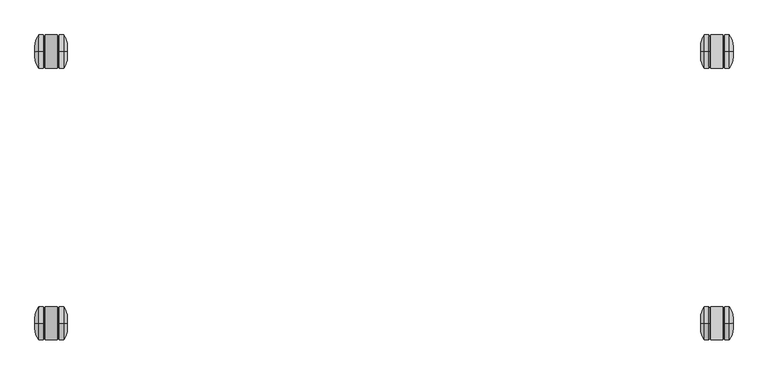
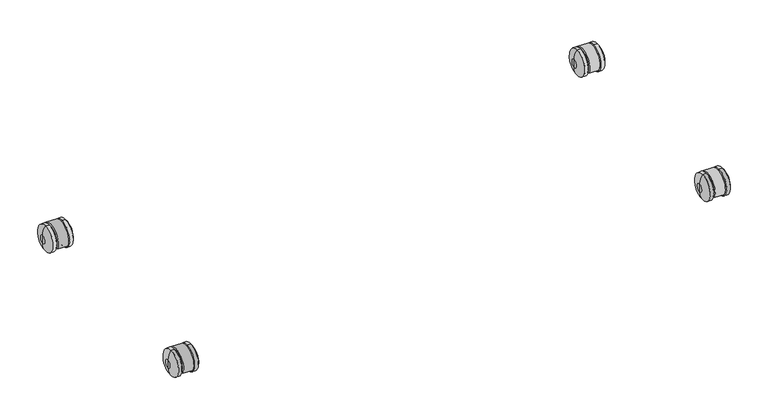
"""IFC4 building model written with IfcOpenShell, lengths in millimetres: furniture geometry, SmithSystem_AM_Table_Education_Elemental_NestAndFold_24D : 24D x 60W."""

from ifc_helpers import new_model, si_unit, point, frame, frame_2d, origin, place, context, project, spatial, polyline, circle_curve, ellipse_curve, trimmed, segment, composite_curve, outline, extrude, source, transform, mapped, element, save
from ifc_brep_helpers import plane_surface, cylinder_surface, revolved_surface, advanced_brep


def furniture_cddd74b0(model_context):
    return source(origin(), model_context, "Body", "SolidModel", [
        extrude(outline(composite_curve([segment(polyline([(-534.3716582, 19.392668), (-597.1174044, 19.392668)]), True, "CONTINUOUS"), segment(trimmed(circle_curve(frame_2d((-565.7445313, 34.2990606)), 34.7341), [point((-597.1174044, 19.392668))], [point((-534.3716582, 19.392668))], False, "CARTESIAN"), True, "CONTINUOUS")], self_intersect=False)), frame((54.6490652, 0.0, 0.0), z_axis=(1.0, 0.0, 0.0), x_axis=(0.0, 1.0, 0.0)), (0.0, 0.0, 1.0), 26.0360428),
        extrude(outline(composite_curve([segment(polyline([(32.7611544, 19.392668), (-29.9845918, 19.392668)]), True, "CONTINUOUS"), segment(trimmed(circle_curve(frame_2d((1.3882813, 34.2990606)), 34.7341), [point((-29.9845918, 19.392668))], [point((32.7611544, 19.392668))], False, "CARTESIAN"), True, "CONTINUOUS")], self_intersect=False)), frame((54.6490652, 0.0, 0.0), z_axis=(1.0, 0.0, 0.0), x_axis=(0.0, 1.0, 0.0)), (0.0, 0.0, 1.0), 26.0360428),
        extrude(outline(composite_curve([segment(polyline([(-534.3716582, 19.392668), (-597.1174044, 19.392668)]), True, "CONTINUOUS"), segment(trimmed(circle_curve(frame_2d((-565.7445313, 34.2990606)), 34.7341), [point((-597.1174044, 19.392668))], [point((-534.3716582, 19.392668))], False, "CARTESIAN"), True, "CONTINUOUS")], self_intersect=False)), frame((1443.314892, 0.0, 0.0), z_axis=(1.0, 0.0, 0.0), x_axis=(0.0, 1.0, 0.0)), (0.0, 0.0, 1.0), 26.0360428),
        extrude(outline(composite_curve([segment(polyline([(32.7611544, 19.392668), (-29.9845918, 19.392668)]), True, "CONTINUOUS"), segment(trimmed(circle_curve(frame_2d((1.3882813, 34.2990606)), 34.7341), [point((-29.9845918, 19.392668))], [point((32.7611544, 19.392668))], False, "CARTESIAN"), True, "CONTINUOUS")], self_intersect=False)), frame((1443.314892, 0.0, 0.0), z_axis=(1.0, 0.0, 0.0), x_axis=(0.0, 1.0, 0.0)), (0.0, 0.0, 1.0), 26.0360428),
        advanced_brep(
        [(1441.7769566, 1.3882813, 34.3697295), (1441.7769566, 1.3882813, 66.3180847), (1441.7769566, 1.3882813, 2.4213744), (1439.6062544, 1.3882813, 69.0331606), (1439.6062544, 1.3882813, -0.2937015), (1430.6015712, 1.3882813, 69.0331606), (1430.6015712, 1.3882813, -0.2937015), (1422.6841685, 1.3882813, 45.9515492), (1422.6841685, 1.3882813, 22.7879099), (1422.6841685, 1.3882813, 34.3697295)],
        [
            (0, 1),
            (1, 2, circle_curve(frame((1441.7769566, 1.3882813, 34.3697295), z_axis=(1.0, 0.0, 0.0), x_axis=(0.0, 0.0, 1.0)), 31.9483552)),
            (2, 0),
            (2, 1, circle_curve(frame((1441.7769566, 1.3882813, 34.3697295), z_axis=(1.0, 0.0, 0.0), x_axis=(0.0, 0.0, 1.0)), 31.9483552)),
            (1, 3),
            (3, 4, circle_curve(frame((1439.6062544, 1.3882813, 34.3697295), z_axis=(1.0, 0.0, 0.0), x_axis=(0.0, 0.0, 1.0)), 34.6634311)),
            (4, 2),
            (4, 3, circle_curve(frame((1439.6062544, 1.3882813, 34.3697295), z_axis=(1.0, 0.0, 0.0), x_axis=(0.0, 0.0, 1.0)), 34.6634311)),
            (3, 5),
            (5, 6, circle_curve(frame((1430.6015712, 1.3882813, 34.3697295), z_axis=(1.0, 0.0, 0.0), x_axis=(0.0, 0.0, 1.0)), 34.6634311)),
            (6, 4),
            (6, 5, circle_curve(frame((1430.6015712, 1.3882813, 34.3697295), z_axis=(1.0, 0.0, 0.0), x_axis=(0.0, 0.0, 1.0)), 34.6634311)),
            (5, 7, circle_curve(frame((1460.2877916, 1.3882813, 45.9515492), z_axis=(0.0, -1.0, 0.0), x_axis=(1.0, 0.0, 0.0)), 37.6036231)),
            (7, 8, circle_curve(frame((1422.6841685, 1.3882813, 34.3697295), z_axis=(1.0, 0.0, 0.0), x_axis=(0.0, 0.0, 1.0)), 11.5818197)),
            (8, 6, circle_curve(frame((1460.2877916, 1.3882813, 22.7879099), z_axis=(0.0, -1.0, 0.0), x_axis=(1.0, 0.0, 0.0)), 37.6036231)),
            (8, 7, circle_curve(frame((1422.6841685, 1.3882813, 34.3697295), z_axis=(1.0, 0.0, 0.0), x_axis=(0.0, 0.0, 1.0)), 11.5818197)),
            (7, 9),
            (9, 8),
        ],
        [
            plane_surface(frame((1441.7769566, 1.3882813, 34.3697295), z_axis=(1.0, 0.0, 0.0), x_axis=(0.0, 0.0, 1.0))),
            revolved_surface(polyline([(1439.6062544, 1.3882813, 69.0331606), (1441.7769566, 1.3882813, 66.3180847)]), (1422.6841685, 1.3882813, 34.3697295), (1.0, 0.0, 0.0)),
            cylinder_surface(frame((1422.6841685, 1.3882813, 34.3697295), z_axis=(1.0, 0.0, 0.0), x_axis=(0.0, 0.0, 1.0)), 34.6634311),
            revolved_surface(trimmed(ellipse_curve(frame((1460.2877916, 1.3882813, 45.9515492), z_axis=(0.0, 1.0, 0.0), x_axis=(1.0, 0.0, 0.0)), 37.6036231, 37.6036231), [point((1422.6841685, 1.3882813, 45.9515492))], [point((1430.6015712, 1.3882813, 69.0331606))], True, "CARTESIAN"), (1422.6841685, 1.3882813, 34.3697295), (1.0, 0.0, 0.0)),
            plane_surface(frame((1422.6841685, 1.3882813, 34.3697295), z_axis=(-1.0, 0.0, 0.0), x_axis=(0.0, 0.0, 1.0))),
        ],
        [
            (0, [[1, 2, 3]]),
            (0, [[-3, 4, -1]]),
            (1, [[-2, 5, 6, 7]]),
            (1, [[-4, -7, 8, -5]]),
            (2, [[-6, 9, 10, 11]]),
            (2, [[-8, -11, 12, -9]]),
            (3, [[-10, 13, 14, 15]]),
            (3, [[-12, -15, 16, -13]]),
            (4, [[-14, 17, 18]]),
            (4, [[-16, -18, -17]]),
        ],
    ),
        advanced_brep(
        [(1490.4247373, 1.3882813, 34.3697295), (1490.4247373, 1.3882813, 45.9515492), (1490.4247373, 1.3882813, 22.7879099), (1482.5073346, 1.3882813, 69.0331606), (1482.5073346, 1.3882813, -0.2937015), (1473.5026514, 1.3882813, 69.0331606), (1473.5026514, 1.3882813, -0.2937015), (1471.3319492, 1.3882813, 66.3180847), (1471.3319492, 1.3882813, 2.4213744), (1471.3319492, 1.3882813, 34.3697295)],
        [
            (0, 1),
            (1, 2, circle_curve(frame((1490.4247373, 1.3882813, 34.3697295), z_axis=(1.0, 0.0, 0.0), x_axis=(0.0, 0.0, 1.0)), 11.5818197)),
            (2, 0),
            (2, 1, circle_curve(frame((1490.4247373, 1.3882813, 34.3697295), z_axis=(1.0, 0.0, 0.0), x_axis=(0.0, 0.0, 1.0)), 11.5818197)),
            (1, 3, circle_curve(frame((1452.8211142, 1.3882813, 45.9515492), z_axis=(0.0, -1.0, 0.0), x_axis=(1.0, 0.0, 0.0)), 37.6036231)),
            (3, 4, circle_curve(frame((1482.5073346, 1.3882813, 34.3697295), z_axis=(1.0, 0.0, 0.0), x_axis=(0.0, 0.0, 1.0)), 34.6634311)),
            (4, 2, circle_curve(frame((1452.8211142, 1.3882813, 22.7879099), z_axis=(0.0, -1.0, 0.0), x_axis=(1.0, 0.0, 0.0)), 37.6036231)),
            (4, 3, circle_curve(frame((1482.5073346, 1.3882813, 34.3697295), z_axis=(1.0, 0.0, 0.0), x_axis=(0.0, 0.0, 1.0)), 34.6634311)),
            (3, 5),
            (5, 6, circle_curve(frame((1473.5026514, 1.3882813, 34.3697295), z_axis=(1.0, 0.0, 0.0), x_axis=(0.0, 0.0, 1.0)), 34.6634311)),
            (6, 4),
            (6, 5, circle_curve(frame((1473.5026514, 1.3882813, 34.3697295), z_axis=(1.0, 0.0, 0.0), x_axis=(0.0, 0.0, 1.0)), 34.6634311)),
            (5, 7),
            (7, 8, circle_curve(frame((1471.3319492, 1.3882813, 34.3697295), z_axis=(1.0, 0.0, 0.0), x_axis=(0.0, 0.0, 1.0)), 31.9483552)),
            (8, 6),
            (8, 7, circle_curve(frame((1471.3319492, 1.3882813, 34.3697295), z_axis=(1.0, 0.0, 0.0), x_axis=(0.0, 0.0, 1.0)), 31.9483552)),
            (7, 9),
            (9, 8),
        ],
        [
            plane_surface(frame((1490.4247373, 1.3882813, 34.3697295), z_axis=(1.0, 0.0, 0.0), x_axis=(0.0, 0.0, 1.0))),
            revolved_surface(trimmed(ellipse_curve(frame((1452.8211142, 1.3882813, 45.9515492), z_axis=(0.0, 1.0, 0.0), x_axis=(1.0, 0.0, 0.0)), 37.6036231, 37.6036231), [point((1482.5073346, 1.3882813, 69.0331606))], [point((1490.4247373, 1.3882813, 45.9515492))], True, "CARTESIAN"), (1422.6841685, 1.3882813, 34.3697295), (1.0, 0.0, 0.0)),
            cylinder_surface(frame((1422.6841685, 1.3882813, 34.3697295), z_axis=(1.0, 0.0, 0.0), x_axis=(0.0, 0.0, 1.0)), 34.6634311),
            revolved_surface(polyline([(1471.3319492, 1.3882813, 66.3180847), (1473.5026514, 1.3882813, 69.0331606)]), (1422.6841685, 1.3882813, 34.3697295), (1.0, 0.0, 0.0)),
            plane_surface(frame((1471.3319492, 1.3882813, 34.3697295), z_axis=(-1.0, 0.0, 0.0), x_axis=(0.0, 0.0, 1.0))),
        ],
        [
            (0, [[1, 2, 3]]),
            (0, [[-3, 4, -1]]),
            (1, [[-2, 5, 6, 7]]),
            (1, [[-4, -7, 8, -5]]),
            (2, [[-6, 9, 10, 11]]),
            (2, [[-8, -11, 12, -9]]),
            (3, [[-10, 13, 14, 15]]),
            (3, [[-12, -15, 16, -13]]),
            (4, [[-14, 17, 18]]),
            (4, [[-16, -18, -17]]),
        ],
    ),
        advanced_brep(
        [(101.3158315, 1.3882813, 34.3697295), (101.3158315, 1.3882813, 45.9515492), (101.3158315, 1.3882813, 22.7879099), (93.3984288, 1.3882813, 69.0331606), (93.3984288, 1.3882813, -0.2937015), (84.3937456, 1.3882813, 69.0331606), (84.3937456, 1.3882813, -0.2937015), (82.2230434, 1.3882813, 66.3180847), (82.2230434, 1.3882813, 2.4213744), (82.2230434, 1.3882813, 34.3697295)],
        [
            (0, 1),
            (1, 2, circle_curve(frame((101.3158315, 1.3882813, 34.3697295), z_axis=(1.0, 0.0, 0.0), x_axis=(0.0, 0.0, 1.0)), 11.5818197)),
            (2, 0),
            (2, 1, circle_curve(frame((101.3158315, 1.3882813, 34.3697295), z_axis=(1.0, 0.0, 0.0), x_axis=(0.0, 0.0, 1.0)), 11.5818197)),
            (1, 3, circle_curve(frame((63.7122084, 1.3882813, 45.9515492), z_axis=(0.0, -1.0, 0.0), x_axis=(1.0, 0.0, 0.0)), 37.6036231)),
            (3, 4, circle_curve(frame((93.3984288, 1.3882813, 34.3697295), z_axis=(1.0, 0.0, 0.0), x_axis=(0.0, 0.0, 1.0)), 34.6634311)),
            (4, 2, circle_curve(frame((63.7122084, 1.3882813, 22.7879099), z_axis=(0.0, -1.0, 0.0), x_axis=(1.0, 0.0, 0.0)), 37.6036231)),
            (4, 3, circle_curve(frame((93.3984288, 1.3882813, 34.3697295), z_axis=(1.0, 0.0, 0.0), x_axis=(0.0, 0.0, 1.0)), 34.6634311)),
            (3, 5),
            (5, 6, circle_curve(frame((84.3937456, 1.3882813, 34.3697295), z_axis=(1.0, 0.0, 0.0), x_axis=(0.0, 0.0, 1.0)), 34.6634311)),
            (6, 4),
            (6, 5, circle_curve(frame((84.3937456, 1.3882813, 34.3697295), z_axis=(1.0, 0.0, 0.0), x_axis=(0.0, 0.0, 1.0)), 34.6634311)),
            (5, 7),
            (7, 8, circle_curve(frame((82.2230434, 1.3882813, 34.3697295), z_axis=(1.0, 0.0, 0.0), x_axis=(0.0, 0.0, 1.0)), 31.9483552)),
            (8, 6),
            (8, 7, circle_curve(frame((82.2230434, 1.3882813, 34.3697295), z_axis=(1.0, 0.0, 0.0), x_axis=(0.0, 0.0, 1.0)), 31.9483552)),
            (7, 9),
            (9, 8),
        ],
        [
            plane_surface(frame((101.3158315, 1.3882813, 34.3697295), z_axis=(1.0, 0.0, 0.0), x_axis=(0.0, 0.0, 1.0))),
            revolved_surface(trimmed(ellipse_curve(frame((63.7122084, 1.3882813, 45.9515492), z_axis=(0.0, 1.0, 0.0), x_axis=(1.0, 0.0, 0.0)), 37.6036231, 37.6036231), [point((93.3984288, 1.3882813, 69.0331606))], [point((101.3158315, 1.3882813, 45.9515492))], True, "CARTESIAN"), (1422.6841685, 1.3882813, 34.3697295), (1.0, 0.0, 0.0)),
            cylinder_surface(frame((1422.6841685, 1.3882813, 34.3697295), z_axis=(1.0, 0.0, 0.0), x_axis=(0.0, 0.0, 1.0)), 34.6634311),
            revolved_surface(polyline([(82.2230434, 1.3882813, 66.3180847), (84.3937456, 1.3882813, 69.0331606)]), (1422.6841685, 1.3882813, 34.3697295), (1.0, 0.0, 0.0)),
            plane_surface(frame((82.2230434, 1.3882813, 34.3697295), z_axis=(-1.0, 0.0, 0.0), x_axis=(0.0, 0.0, 1.0))),
        ],
        [
            (0, [[1, 2, 3]]),
            (0, [[-3, 4, -1]]),
            (1, [[-2, 5, 6, 7]]),
            (1, [[-4, -7, 8, -5]]),
            (2, [[-6, 9, 10, 11]]),
            (2, [[-8, -11, 12, -9]]),
            (3, [[-10, 13, 14, 15]]),
            (3, [[-12, -15, 16, -13]]),
            (4, [[-14, 17, 18]]),
            (4, [[-16, -18, -17]]),
        ],
    ),
        advanced_brep(
        [(52.6680508, 1.3882813, 34.3697295), (52.6680508, 1.3882813, 66.3180847), (52.6680508, 1.3882813, 2.4213744), (50.4973486, 1.3882813, 69.0331606), (50.4973486, 1.3882813, -0.2937015), (41.4926654, 1.3882813, 69.0331606), (41.4926654, 1.3882813, -0.2937015), (33.5752627, 1.3882813, 45.9515492), (33.5752627, 1.3882813, 22.7879099), (33.5752627, 1.3882813, 34.3697295)],
        [
            (0, 1),
            (1, 2, circle_curve(frame((52.6680508, 1.3882813, 34.3697295), z_axis=(1.0, 0.0, 0.0), x_axis=(0.0, 0.0, 1.0)), 31.9483552)),
            (2, 0),
            (2, 1, circle_curve(frame((52.6680508, 1.3882813, 34.3697295), z_axis=(1.0, 0.0, 0.0), x_axis=(0.0, 0.0, 1.0)), 31.9483552)),
            (1, 3),
            (3, 4, circle_curve(frame((50.4973486, 1.3882813, 34.3697295), z_axis=(1.0, 0.0, 0.0), x_axis=(0.0, 0.0, 1.0)), 34.6634311)),
            (4, 2),
            (4, 3, circle_curve(frame((50.4973486, 1.3882813, 34.3697295), z_axis=(1.0, 0.0, 0.0), x_axis=(0.0, 0.0, 1.0)), 34.6634311)),
            (3, 5),
            (5, 6, circle_curve(frame((41.4926654, 1.3882813, 34.3697295), z_axis=(1.0, 0.0, 0.0), x_axis=(0.0, 0.0, 1.0)), 34.6634311)),
            (6, 4),
            (6, 5, circle_curve(frame((41.4926654, 1.3882813, 34.3697295), z_axis=(1.0, 0.0, 0.0), x_axis=(0.0, 0.0, 1.0)), 34.6634311)),
            (5, 7, circle_curve(frame((71.1788858, 1.3882813, 45.9515492), z_axis=(0.0, -1.0, 0.0), x_axis=(1.0, 0.0, 0.0)), 37.6036231)),
            (7, 8, circle_curve(frame((33.5752627, 1.3882813, 34.3697295), z_axis=(1.0, 0.0, 0.0), x_axis=(0.0, 0.0, 1.0)), 11.5818197)),
            (8, 6, circle_curve(frame((71.1788858, 1.3882813, 22.7879099), z_axis=(0.0, -1.0, 0.0), x_axis=(1.0, 0.0, 0.0)), 37.6036231)),
            (8, 7, circle_curve(frame((33.5752627, 1.3882813, 34.3697295), z_axis=(1.0, 0.0, 0.0), x_axis=(0.0, 0.0, 1.0)), 11.5818197)),
            (7, 9),
            (9, 8),
        ],
        [
            plane_surface(frame((52.6680508, 1.3882813, 34.3697295), z_axis=(1.0, 0.0, 0.0), x_axis=(0.0, 0.0, 1.0))),
            revolved_surface(polyline([(50.4973486, 1.3882813, 69.0331606), (52.6680508, 1.3882813, 66.3180847)]), (1422.6841685, 1.3882813, 34.3697295), (1.0, 0.0, 0.0)),
            cylinder_surface(frame((1422.6841685, 1.3882813, 34.3697295), z_axis=(1.0, 0.0, 0.0), x_axis=(0.0, 0.0, 1.0)), 34.6634311),
            revolved_surface(trimmed(ellipse_curve(frame((71.1788858, 1.3882813, 45.9515492), z_axis=(0.0, 1.0, 0.0), x_axis=(1.0, 0.0, 0.0)), 37.6036231, 37.6036231), [point((33.5752627, 1.3882813, 45.9515492))], [point((41.4926654, 1.3882813, 69.0331606))], True, "CARTESIAN"), (1422.6841685, 1.3882813, 34.3697295), (1.0, 0.0, 0.0)),
            plane_surface(frame((33.5752627, 1.3882813, 34.3697295), z_axis=(-1.0, 0.0, 0.0), x_axis=(0.0, 0.0, 1.0))),
        ],
        [
            (0, [[1, 2, 3]]),
            (0, [[-3, 4, -1]]),
            (1, [[-2, 5, 6, 7]]),
            (1, [[-4, -7, 8, -5]]),
            (2, [[-6, 9, 10, 11]]),
            (2, [[-8, -11, 12, -9]]),
            (3, [[-10, 13, 14, 15]]),
            (3, [[-12, -15, 16, -13]]),
            (4, [[-14, 17, 18]]),
            (4, [[-16, -18, -17]]),
        ],
    ),
        advanced_brep(
        [(1441.7769566, -565.7453125, 2.4213744), (1441.7769566, -565.7453125, 66.3180847), (1441.7769566, -565.7453125, 34.3697295), (1439.6062544, -565.7453125, -0.2937015), (1439.6062544, -565.7453125, 69.0331606), (1430.6015712, -565.7453125, -0.2937015), (1430.6015712, -565.7453125, 69.0331606), (1422.6841685, -565.7453125, 22.7879099), (1422.6841685, -565.7453125, 45.9515492), (1422.6841685, -565.7453125, 34.3697295)],
        [
            (0, 1, circle_curve(frame((1441.7769566, -565.7453125, 34.3697295), z_axis=(1.0, 0.0, 0.0), x_axis=(0.0, 0.0, 1.0)), 31.9483552)),
            (1, 2),
            (2, 0),
            (1, 0, circle_curve(frame((1441.7769566, -565.7453125, 34.3697295), z_axis=(1.0, 0.0, 0.0), x_axis=(0.0, 0.0, 1.0)), 31.9483552)),
            (3, 4, circle_curve(frame((1439.6062544, -565.7453125, 34.3697295), z_axis=(1.0, 0.0, 0.0), x_axis=(0.0, 0.0, 1.0)), 34.6634311)),
            (4, 1),
            (0, 3),
            (4, 3, circle_curve(frame((1439.6062544, -565.7453125, 34.3697295), z_axis=(1.0, 0.0, 0.0), x_axis=(0.0, 0.0, 1.0)), 34.6634311)),
            (5, 6, circle_curve(frame((1430.6015712, -565.7453125, 34.3697295), z_axis=(1.0, 0.0, 0.0), x_axis=(0.0, 0.0, 1.0)), 34.6634311)),
            (6, 4),
            (3, 5),
            (6, 5, circle_curve(frame((1430.6015712, -565.7453125, 34.3697295), z_axis=(1.0, 0.0, 0.0), x_axis=(0.0, 0.0, 1.0)), 34.6634311)),
            (7, 8, circle_curve(frame((1422.6841685, -565.7453125, 34.3697295), z_axis=(1.0, 0.0, 0.0), x_axis=(0.0, 0.0, 1.0)), 11.5818197)),
            (8, 6, circle_curve(frame((1460.2877916, -565.7453125, 45.9515492), z_axis=(0.0, 1.0, 0.0), x_axis=(1.0, 0.0, 0.0)), 37.6036231)),
            (5, 7, circle_curve(frame((1460.2877916, -565.7453125, 22.7879099), z_axis=(0.0, 1.0, 0.0), x_axis=(1.0, 0.0, 0.0)), 37.6036231)),
            (8, 7, circle_curve(frame((1422.6841685, -565.7453125, 34.3697295), z_axis=(1.0, 0.0, 0.0), x_axis=(0.0, 0.0, 1.0)), 11.5818197)),
            (9, 8),
            (7, 9),
        ],
        [
            plane_surface(frame((1441.7769566, -565.7453125, 34.3697295), z_axis=(1.0, 0.0, 0.0), x_axis=(0.0, 0.0, 1.0))),
            revolved_surface(polyline([(1441.7769566, -565.7453125, 66.3180847), (1439.6062544, -565.7453125, 69.0331606)]), (1422.6841685, -565.7453125, 34.3697295), (-1.0, 0.0, 0.0)),
            cylinder_surface(frame((1422.6841685, -565.7453125, 34.3697295), z_axis=(-1.0, 0.0, 0.0), x_axis=(0.0, 0.0, 1.0)), 34.6634311),
            revolved_surface(trimmed(ellipse_curve(frame((1460.2877916, -565.7453125, 45.9515492), z_axis=(0.0, -1.0, 0.0), x_axis=(1.0, 0.0, 0.0)), 37.6036231, 37.6036231), [point((1430.6015712, -565.7453125, 69.0331606))], [point((1422.6841685, -565.7453125, 45.9515492))], True, "CARTESIAN"), (1422.6841685, -565.7453125, 34.3697295), (-1.0, 0.0, 0.0)),
            plane_surface(frame((1422.6841685, -565.7453125, 34.3697295), z_axis=(-1.0, 0.0, 0.0), x_axis=(0.0, 0.0, 1.0))),
        ],
        [
            (0, [[1, 2, 3]]),
            (0, [[4, -3, -2]]),
            (1, [[5, 6, -1, 7]]),
            (1, [[8, -7, -4, -6]]),
            (2, [[9, 10, -5, 11]]),
            (2, [[12, -11, -8, -10]]),
            (3, [[13, 14, -9, 15]]),
            (3, [[16, -15, -12, -14]]),
            (4, [[17, -13, 18]]),
            (4, [[-18, -16, -17]]),
        ],
    ),
        advanced_brep(
        [(1490.4247373, -565.7453125, 22.7879099), (1490.4247373, -565.7453125, 45.9515492), (1490.4247373, -565.7453125, 34.3697295), (1482.5073346, -565.7453125, -0.2937015), (1482.5073346, -565.7453125, 69.0331606), (1473.5026514, -565.7453125, -0.2937015), (1473.5026514, -565.7453125, 69.0331606), (1471.3319492, -565.7453125, 2.4213744), (1471.3319492, -565.7453125, 66.3180847), (1471.3319492, -565.7453125, 34.3697295)],
        [
            (0, 1, circle_curve(frame((1490.4247373, -565.7453125, 34.3697295), z_axis=(1.0, 0.0, 0.0), x_axis=(0.0, 0.0, 1.0)), 11.5818197)),
            (1, 2),
            (2, 0),
            (1, 0, circle_curve(frame((1490.4247373, -565.7453125, 34.3697295), z_axis=(1.0, 0.0, 0.0), x_axis=(0.0, 0.0, 1.0)), 11.5818197)),
            (3, 4, circle_curve(frame((1482.5073346, -565.7453125, 34.3697295), z_axis=(1.0, 0.0, 0.0), x_axis=(0.0, 0.0, 1.0)), 34.6634311)),
            (4, 1, circle_curve(frame((1452.8211142, -565.7453125, 45.9515492), z_axis=(0.0, 1.0, 0.0), x_axis=(1.0, 0.0, 0.0)), 37.6036231)),
            (0, 3, circle_curve(frame((1452.8211142, -565.7453125, 22.7879099), z_axis=(0.0, 1.0, 0.0), x_axis=(1.0, 0.0, 0.0)), 37.6036231)),
            (4, 3, circle_curve(frame((1482.5073346, -565.7453125, 34.3697295), z_axis=(1.0, 0.0, 0.0), x_axis=(0.0, 0.0, 1.0)), 34.6634311)),
            (5, 6, circle_curve(frame((1473.5026514, -565.7453125, 34.3697295), z_axis=(1.0, 0.0, 0.0), x_axis=(0.0, 0.0, 1.0)), 34.6634311)),
            (6, 4),
            (3, 5),
            (6, 5, circle_curve(frame((1473.5026514, -565.7453125, 34.3697295), z_axis=(1.0, 0.0, 0.0), x_axis=(0.0, 0.0, 1.0)), 34.6634311)),
            (7, 8, circle_curve(frame((1471.3319492, -565.7453125, 34.3697295), z_axis=(1.0, 0.0, 0.0), x_axis=(0.0, 0.0, 1.0)), 31.9483552)),
            (8, 6),
            (5, 7),
            (8, 7, circle_curve(frame((1471.3319492, -565.7453125, 34.3697295), z_axis=(1.0, 0.0, 0.0), x_axis=(0.0, 0.0, 1.0)), 31.9483552)),
            (9, 8),
            (7, 9),
        ],
        [
            plane_surface(frame((1490.4247373, -565.7453125, 34.3697295), z_axis=(1.0, 0.0, 0.0), x_axis=(0.0, 0.0, 1.0))),
            revolved_surface(trimmed(ellipse_curve(frame((1452.8211142, -565.7453125, 45.9515492), z_axis=(0.0, -1.0, 0.0), x_axis=(1.0, 0.0, 0.0)), 37.6036231, 37.6036231), [point((1490.4247373, -565.7453125, 45.9515492))], [point((1482.5073346, -565.7453125, 69.0331606))], True, "CARTESIAN"), (1422.6841685, -565.7453125, 34.3697295), (-1.0, 0.0, 0.0)),
            cylinder_surface(frame((1422.6841685, -565.7453125, 34.3697295), z_axis=(-1.0, 0.0, 0.0), x_axis=(0.0, 0.0, 1.0)), 34.6634311),
            revolved_surface(polyline([(1473.5026514, -565.7453125, 69.0331606), (1471.3319492, -565.7453125, 66.3180847)]), (1422.6841685, -565.7453125, 34.3697295), (-1.0, 0.0, 0.0)),
            plane_surface(frame((1471.3319492, -565.7453125, 34.3697295), z_axis=(-1.0, 0.0, 0.0), x_axis=(0.0, 0.0, 1.0))),
        ],
        [
            (0, [[1, 2, 3]]),
            (0, [[4, -3, -2]]),
            (1, [[5, 6, -1, 7]]),
            (1, [[8, -7, -4, -6]]),
            (2, [[9, 10, -5, 11]]),
            (2, [[12, -11, -8, -10]]),
            (3, [[13, 14, -9, 15]]),
            (3, [[16, -15, -12, -14]]),
            (4, [[17, -13, 18]]),
            (4, [[-18, -16, -17]]),
        ],
    ),
        advanced_brep(
        [(101.3158315, -565.7453125, 22.7879099), (101.3158315, -565.7453125, 45.9515492), (101.3158315, -565.7453125, 34.3697295), (93.3984288, -565.7453125, -0.2937015), (93.3984288, -565.7453125, 69.0331606), (84.3937456, -565.7453125, -0.2937015), (84.3937456, -565.7453125, 69.0331606), (82.2230434, -565.7453125, 2.4213744), (82.2230434, -565.7453125, 66.3180847), (82.2230434, -565.7453125, 34.3697295)],
        [
            (0, 1, circle_curve(frame((101.3158315, -565.7453125, 34.3697295), z_axis=(1.0, 0.0, 0.0), x_axis=(0.0, 0.0, 1.0)), 11.5818197)),
            (1, 2),
            (2, 0),
            (1, 0, circle_curve(frame((101.3158315, -565.7453125, 34.3697295), z_axis=(1.0, 0.0, 0.0), x_axis=(0.0, 0.0, 1.0)), 11.5818197)),
            (3, 4, circle_curve(frame((93.3984288, -565.7453125, 34.3697295), z_axis=(1.0, 0.0, 0.0), x_axis=(0.0, 0.0, 1.0)), 34.6634311)),
            (4, 1, circle_curve(frame((63.7122084, -565.7453125, 45.9515492), z_axis=(0.0, 1.0, 0.0), x_axis=(1.0, 0.0, 0.0)), 37.6036231)),
            (0, 3, circle_curve(frame((63.7122084, -565.7453125, 22.7879099), z_axis=(0.0, 1.0, 0.0), x_axis=(1.0, 0.0, 0.0)), 37.6036231)),
            (4, 3, circle_curve(frame((93.3984288, -565.7453125, 34.3697295), z_axis=(1.0, 0.0, 0.0), x_axis=(0.0, 0.0, 1.0)), 34.6634311)),
            (5, 6, circle_curve(frame((84.3937456, -565.7453125, 34.3697295), z_axis=(1.0, 0.0, 0.0), x_axis=(0.0, 0.0, 1.0)), 34.6634311)),
            (6, 4),
            (3, 5),
            (6, 5, circle_curve(frame((84.3937456, -565.7453125, 34.3697295), z_axis=(1.0, 0.0, 0.0), x_axis=(0.0, 0.0, 1.0)), 34.6634311)),
            (7, 8, circle_curve(frame((82.2230434, -565.7453125, 34.3697295), z_axis=(1.0, 0.0, 0.0), x_axis=(0.0, 0.0, 1.0)), 31.9483552)),
            (8, 6),
            (5, 7),
            (8, 7, circle_curve(frame((82.2230434, -565.7453125, 34.3697295), z_axis=(1.0, 0.0, 0.0), x_axis=(0.0, 0.0, 1.0)), 31.9483552)),
            (9, 8),
            (7, 9),
        ],
        [
            plane_surface(frame((101.3158315, -565.7453125, 34.3697295), z_axis=(1.0, 0.0, 0.0), x_axis=(0.0, 0.0, 1.0))),
            revolved_surface(trimmed(ellipse_curve(frame((63.7122084, -565.7453125, 45.9515492), z_axis=(0.0, -1.0, 0.0), x_axis=(1.0, 0.0, 0.0)), 37.6036231, 37.6036231), [point((101.3158315, -565.7453125, 45.9515492))], [point((93.3984288, -565.7453125, 69.0331606))], True, "CARTESIAN"), (1422.6841685, -565.7453125, 34.3697295), (-1.0, 0.0, 0.0)),
            cylinder_surface(frame((1422.6841685, -565.7453125, 34.3697295), z_axis=(-1.0, 0.0, 0.0), x_axis=(0.0, 0.0, 1.0)), 34.6634311),
            revolved_surface(polyline([(84.3937456, -565.7453125, 69.0331606), (82.2230434, -565.7453125, 66.3180847)]), (1422.6841685, -565.7453125, 34.3697295), (-1.0, 0.0, 0.0)),
            plane_surface(frame((82.2230434, -565.7453125, 34.3697295), z_axis=(-1.0, 0.0, 0.0), x_axis=(0.0, 0.0, 1.0))),
        ],
        [
            (0, [[1, 2, 3]]),
            (0, [[4, -3, -2]]),
            (1, [[5, 6, -1, 7]]),
            (1, [[8, -7, -4, -6]]),
            (2, [[9, 10, -5, 11]]),
            (2, [[12, -11, -8, -10]]),
            (3, [[13, 14, -9, 15]]),
            (3, [[16, -15, -12, -14]]),
            (4, [[17, -13, 18]]),
            (4, [[-18, -16, -17]]),
        ],
    ),
        advanced_brep(
        [(52.6680508, -565.7453125, 2.4213744), (52.6680508, -565.7453125, 66.3180847), (52.6680508, -565.7453125, 34.3697295), (50.4973486, -565.7453125, -0.2937015), (50.4973486, -565.7453125, 69.0331606), (41.4926654, -565.7453125, -0.2937015), (41.4926654, -565.7453125, 69.0331606), (33.5752627, -565.7453125, 22.7879099), (33.5752627, -565.7453125, 45.9515492), (33.5752627, -565.7453125, 34.3697295)],
        [
            (0, 1, circle_curve(frame((52.6680508, -565.7453125, 34.3697295), z_axis=(1.0, 0.0, 0.0), x_axis=(0.0, 0.0, 1.0)), 31.9483552)),
            (1, 2),
            (2, 0),
            (1, 0, circle_curve(frame((52.6680508, -565.7453125, 34.3697295), z_axis=(1.0, 0.0, 0.0), x_axis=(0.0, 0.0, 1.0)), 31.9483552)),
            (3, 4, circle_curve(frame((50.4973486, -565.7453125, 34.3697295), z_axis=(1.0, 0.0, 0.0), x_axis=(0.0, 0.0, 1.0)), 34.6634311)),
            (4, 1),
            (0, 3),
            (4, 3, circle_curve(frame((50.4973486, -565.7453125, 34.3697295), z_axis=(1.0, 0.0, 0.0), x_axis=(0.0, 0.0, 1.0)), 34.6634311)),
            (5, 6, circle_curve(frame((41.4926654, -565.7453125, 34.3697295), z_axis=(1.0, 0.0, 0.0), x_axis=(0.0, 0.0, 1.0)), 34.6634311)),
            (6, 4),
            (3, 5),
            (6, 5, circle_curve(frame((41.4926654, -565.7453125, 34.3697295), z_axis=(1.0, 0.0, 0.0), x_axis=(0.0, 0.0, 1.0)), 34.6634311)),
            (7, 8, circle_curve(frame((33.5752627, -565.7453125, 34.3697295), z_axis=(1.0, 0.0, 0.0), x_axis=(0.0, 0.0, 1.0)), 11.5818197)),
            (8, 6, circle_curve(frame((71.1788858, -565.7453125, 45.9515492), z_axis=(0.0, 1.0, 0.0), x_axis=(1.0, 0.0, 0.0)), 37.6036231)),
            (5, 7, circle_curve(frame((71.1788858, -565.7453125, 22.7879099), z_axis=(0.0, 1.0, 0.0), x_axis=(1.0, 0.0, 0.0)), 37.6036231)),
            (8, 7, circle_curve(frame((33.5752627, -565.7453125, 34.3697295), z_axis=(1.0, 0.0, 0.0), x_axis=(0.0, 0.0, 1.0)), 11.5818197)),
            (9, 8),
            (7, 9),
        ],
        [
            plane_surface(frame((52.6680508, -565.7453125, 34.3697295), z_axis=(1.0, 0.0, 0.0), x_axis=(0.0, 0.0, 1.0))),
            revolved_surface(polyline([(52.6680508, -565.7453125, 66.3180847), (50.4973486, -565.7453125, 69.0331606)]), (1422.6841685, -565.7453125, 34.3697295), (-1.0, 0.0, 0.0)),
            cylinder_surface(frame((1422.6841685, -565.7453125, 34.3697295), z_axis=(-1.0, 0.0, 0.0), x_axis=(0.0, 0.0, 1.0)), 34.6634311),
            revolved_surface(trimmed(ellipse_curve(frame((71.1788858, -565.7453125, 45.9515492), z_axis=(0.0, -1.0, 0.0), x_axis=(1.0, 0.0, 0.0)), 37.6036231, 37.6036231), [point((41.4926654, -565.7453125, 69.0331606))], [point((33.5752627, -565.7453125, 45.9515492))], True, "CARTESIAN"), (1422.6841685, -565.7453125, 34.3697295), (-1.0, 0.0, 0.0)),
            plane_surface(frame((33.5752627, -565.7453125, 34.3697295), z_axis=(-1.0, 0.0, 0.0), x_axis=(0.0, 0.0, 1.0))),
        ],
        [
            (0, [[1, 2, 3]]),
            (0, [[4, -3, -2]]),
            (1, [[5, 6, -1, 7]]),
            (1, [[8, -7, -4, -6]]),
            (2, [[9, 10, -5, 11]]),
            (2, [[12, -11, -8, -10]]),
            (3, [[13, 14, -9, 15]]),
            (3, [[16, -15, -12, -14]]),
            (4, [[17, -13, 18]]),
            (4, [[-18, -16, -17]]),
        ],
    ),
    ])


if __name__ == "__main__":
    model = new_model("IFC4")
    model_context = context("Model", 3, world=origin())
    ifc_project = project(units=[si_unit("LENGTHUNIT", "METRE", prefix="MILLI")], contexts=[model_context])
    site = spatial("IfcSite", under=ifc_project)
    building = spatial("IfcBuilding", under=site)
    placement = place(None, origin())
    furniture_shape = furniture_cddd74b0(model_context)
    element("IfcFurniture", 1, ObjectType="SmithSystem_AM_Table_Education_Elemental_NestAndFold_24D : 24D x 60W", at=placement, inside=building, context=model_context, shape_type="MappedRepresentation", body=[
        mapped(furniture_shape, transform((0.0, 0.0, 0.0), x_axis=(1.0, 0.0, 0.0), y_axis=(0.0, 1.0, 0.0), z_axis=(0.0, 0.0, 1.0))),
    ])
    save(model, "model.ifc")
